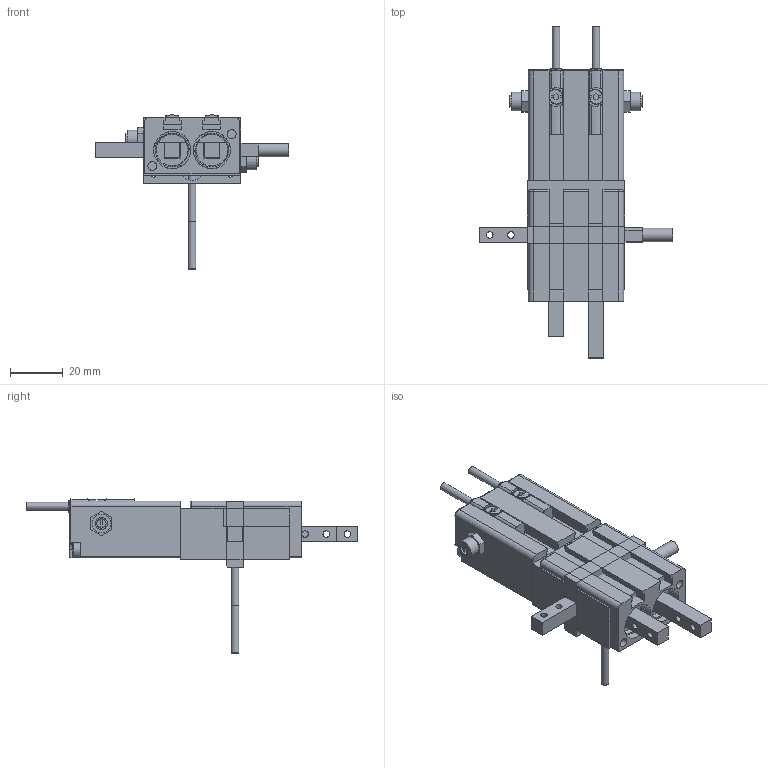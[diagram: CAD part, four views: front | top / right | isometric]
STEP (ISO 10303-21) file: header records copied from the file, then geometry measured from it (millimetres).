
FILE_DESCRIPTION( ( 'Vereinzelungsmodul' ), '1' );
FILE_NAME( 'S:/Normgeräte/Neutrale CAD Daten/PVM 0/Step/PVM0A_PVM0060.stp', '08.09.2010', ( 'MHeitzmann' ), ( 'Robo Mat AG' ), 'PSStep 13.0', 'Solid Edge', ' ' );
FILE_SCHEMA( ( 'AUTOMOTIVE_DESIGN { 1 0 10303 214 1 1 1 1 }' ) );
Length unit declared in the file: millimetre
Products named in the file (10): Assem1; PVM0116; PVM0101; PVM0100; Zylinderschraube - M4x10 - BN 612-A4; PVM0117; W+S - Hohlschraube mit Auslassdrossel - 235-5000K - M5; KOENIG - Expander - HK030-CK55-111; SICK_MTZ8_03_VP0_KP0_Bestell_Nr_1044930; Screw_DIN_EN_ISO_4762_M3x45
Bounding box: 73.2 x 125.5 x 58.3 mm (x, y, z)
Volume: 102012.8 mm3; surface area: 56554.6 mm2
Topology: 24 solids, 24 shells, 1149 faces, 3081 edges, 2013 vertices
Faces by surface type: plane 628, cylinder 400, cone 97, torus 22, sphere 2
Full cylindrical faces by diameter (mm): 0.8 x12, 1 x4, 2 x10, 2.459 x25, 2.5 x3, 2.9 x3, 3 x17, 3.1 x4, 3.242 x4, 3.4 x4, 3.5 x15, 4 x3, 4.134 x16, 4.5 x7, 5 x6, 5.4 x6, 5.5 x7, 5.8 x6, 5.999 x6, 6 x4, 6.2 x4, 7 x6, 8 x8, 12 x4, 14 x4
Entity records: 16990 total; most frequent: CARTESIAN_POINT 2990, DIRECTION 2166, ORIENTED_EDGE 1988, EDGE_CURVE 994, AXIS2_PLACEMENT_3D 778, VERTEX_POINT 712, EDGE_LOOP 635, LINE 610
